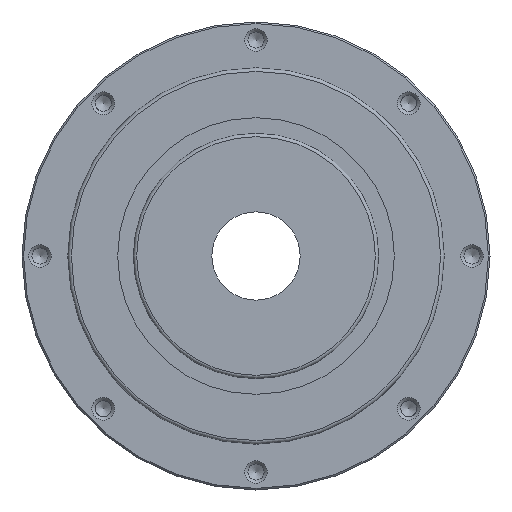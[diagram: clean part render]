
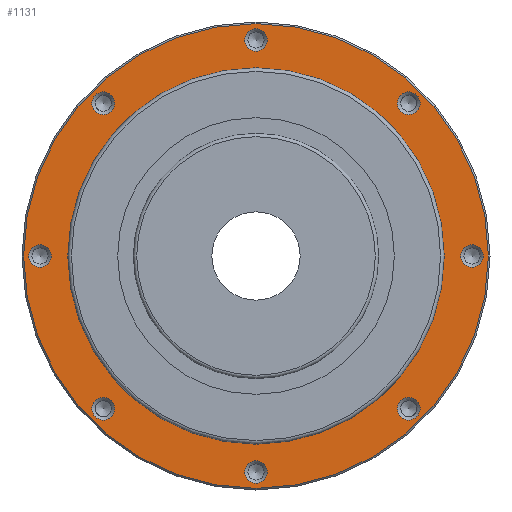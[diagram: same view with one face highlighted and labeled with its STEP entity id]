
A CAD part, left-side view. The second image highlights one B-rep face of the part: STEP entity #1131.
In plain terms, the highlighted planar face has unit normal (-1, 0, 0).
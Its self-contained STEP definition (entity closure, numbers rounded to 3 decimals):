
#59=PLANE('',#1224);
#94=ORIENTED_EDGE('',*,*,#217,.T.);
#95=ORIENTED_EDGE('',*,*,#218,.T.);
#96=ORIENTED_EDGE('',*,*,#219,.T.);
#97=ORIENTED_EDGE('',*,*,#220,.T.);
#98=ORIENTED_EDGE('',*,*,#221,.T.);
#99=ORIENTED_EDGE('',*,*,#222,.T.);
#100=ORIENTED_EDGE('',*,*,#223,.T.);
#101=ORIENTED_EDGE('',*,*,#224,.T.);
#102=ORIENTED_EDGE('',*,*,#225,.T.);
#103=ORIENTED_EDGE('',*,*,#216,.F.);
#216=EDGE_CURVE('',#279,#279,#350,.T.);
#217=EDGE_CURVE('',#280,#280,#351,.T.);
#218=EDGE_CURVE('',#281,#281,#352,.T.);
#219=EDGE_CURVE('',#282,#282,#353,.T.);
#220=EDGE_CURVE('',#283,#283,#354,.T.);
#221=EDGE_CURVE('',#284,#284,#355,.T.);
#222=EDGE_CURVE('',#285,#285,#356,.T.);
#223=EDGE_CURVE('',#286,#286,#357,.T.);
#224=EDGE_CURVE('',#287,#287,#358,.T.);
#225=EDGE_CURVE('',#288,#288,#359,.T.);
#279=VERTEX_POINT('',#1629);
#280=VERTEX_POINT('',#1632);
#281=VERTEX_POINT('',#1634);
#282=VERTEX_POINT('',#1636);
#283=VERTEX_POINT('',#1638);
#284=VERTEX_POINT('',#1640);
#285=VERTEX_POINT('',#1642);
#286=VERTEX_POINT('',#1644);
#287=VERTEX_POINT('',#1646);
#288=VERTEX_POINT('',#1648);
#350=CIRCLE('',#1223,57.5);
#351=CIRCLE('',#1225,3.459);
#352=CIRCLE('',#1226,3.459);
#353=CIRCLE('',#1227,3.459);
#354=CIRCLE('',#1228,3.459);
#355=CIRCLE('',#1229,3.459);
#356=CIRCLE('',#1230,3.459);
#357=CIRCLE('',#1231,3.459);
#358=CIRCLE('',#1232,3.459);
#359=CIRCLE('',#1233,71.);
#417=EDGE_LOOP('',(#94));
#418=EDGE_LOOP('',(#95));
#419=EDGE_LOOP('',(#96));
#420=EDGE_LOOP('',(#97));
#421=EDGE_LOOP('',(#98));
#422=EDGE_LOOP('',(#99));
#423=EDGE_LOOP('',(#100));
#424=EDGE_LOOP('',(#101));
#425=EDGE_LOOP('',(#102));
#426=EDGE_LOOP('',(#103));
#543=FACE_BOUND('',#417,.T.);
#544=FACE_BOUND('',#418,.T.);
#545=FACE_BOUND('',#419,.T.);
#546=FACE_BOUND('',#420,.T.);
#547=FACE_BOUND('',#421,.T.);
#548=FACE_BOUND('',#422,.T.);
#549=FACE_BOUND('',#423,.T.);
#550=FACE_BOUND('',#424,.T.);
#551=FACE_BOUND('',#425,.T.);
#552=FACE_BOUND('',#426,.T.);
#1131=ADVANCED_FACE('',(#543,#544,#545,#546,#547,#548,#549,#550,#551,#552),
#59,.T.);
#1223=AXIS2_PLACEMENT_3D('',#1628,#1389,#1390);
#1224=AXIS2_PLACEMENT_3D('',#1630,#1391,#1392);
#1225=AXIS2_PLACEMENT_3D('',#1631,#1393,#1394);
#1226=AXIS2_PLACEMENT_3D('',#1633,#1395,#1396);
#1227=AXIS2_PLACEMENT_3D('',#1635,#1397,#1398);
#1228=AXIS2_PLACEMENT_3D('',#1637,#1399,#1400);
#1229=AXIS2_PLACEMENT_3D('',#1639,#1401,#1402);
#1230=AXIS2_PLACEMENT_3D('',#1641,#1403,#1404);
#1231=AXIS2_PLACEMENT_3D('',#1643,#1405,#1406);
#1232=AXIS2_PLACEMENT_3D('',#1645,#1407,#1408);
#1233=AXIS2_PLACEMENT_3D('',#1647,#1409,#1410);
#1389=DIRECTION('',(-1.,0.,0.));
#1390=DIRECTION('',(0.,0.,1.));
#1391=DIRECTION('',(-1.,0.,0.));
#1392=DIRECTION('',(0.,0.,1.));
#1393=DIRECTION('',(1.,0.,0.));
#1394=DIRECTION('',(0.,-0.707,0.707));
#1395=DIRECTION('',(1.,0.,0.));
#1396=DIRECTION('',(0.,0.,1.));
#1397=DIRECTION('',(1.,0.,0.));
#1398=DIRECTION('',(0.,0.707,0.707));
#1399=DIRECTION('',(1.,0.,0.));
#1400=DIRECTION('',(0.,1.,0.));
#1401=DIRECTION('',(1.,0.,0.));
#1402=DIRECTION('',(0.,0.707,-0.707));
#1403=DIRECTION('',(1.,0.,0.));
#1404=DIRECTION('',(0.,0.,-1.));
#1405=DIRECTION('',(1.,0.,0.));
#1406=DIRECTION('',(0.,-0.707,-0.707));
#1407=DIRECTION('',(1.,0.,0.));
#1408=DIRECTION('',(0.,-1.,0.));
#1409=DIRECTION('',(-1.,0.,0.));
#1410=DIRECTION('',(0.,0.,1.));
#1628=CARTESIAN_POINT('',(16.,0.,0.));
#1629=CARTESIAN_POINT('',(16.,0.,57.5));
#1630=CARTESIAN_POINT('',(16.,0.,57.5));
#1631=CARTESIAN_POINT('',(16.,46.669,46.669));
#1632=CARTESIAN_POINT('',(16.,44.224,49.115));
#1633=CARTESIAN_POINT('',(16.,66.,0.));
#1634=CARTESIAN_POINT('',(16.,66.,3.458));
#1635=CARTESIAN_POINT('',(16.,46.669,-46.669));
#1636=CARTESIAN_POINT('',(16.,49.115,-44.224));
#1637=CARTESIAN_POINT('',(16.,0.,-66.));
#1638=CARTESIAN_POINT('',(16.,3.459,-66.));
#1639=CARTESIAN_POINT('',(16.,-46.669,-46.669));
#1640=CARTESIAN_POINT('',(16.,-44.224,-49.115));
#1641=CARTESIAN_POINT('',(16.,-66.,0.));
#1642=CARTESIAN_POINT('',(16.,-66.,-3.459));
#1643=CARTESIAN_POINT('',(16.,-46.669,46.669));
#1644=CARTESIAN_POINT('',(16.,-49.115,44.224));
#1645=CARTESIAN_POINT('',(16.,0.,66.));
#1646=CARTESIAN_POINT('',(16.,-3.459,66.));
#1647=CARTESIAN_POINT('',(16.,0.,0.));
#1648=CARTESIAN_POINT('',(16.,0.,71.));
